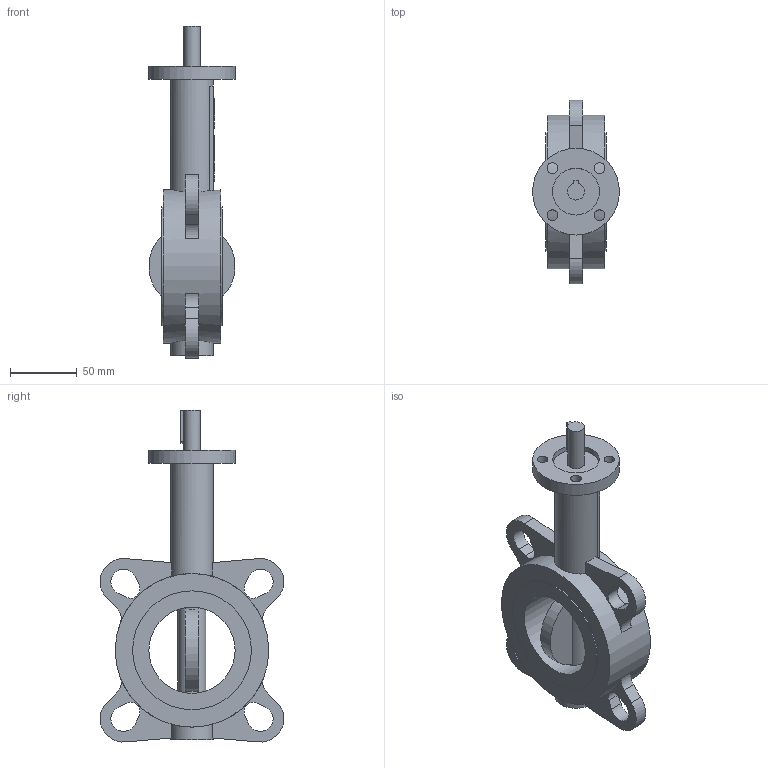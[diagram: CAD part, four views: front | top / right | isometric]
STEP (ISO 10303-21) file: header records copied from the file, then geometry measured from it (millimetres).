
FILE_DESCRIPTION(('STEP AP203'), '1');
FILE_NAME('Çàòâîð 017W.Z(ñòàëü) DN65 PN10_16 áåç èñï. ìåõ-ìà', '', ('UNSPECIFIED'), ('UNSPECIFIED'), 'ASCON STEP Converter 1.6', 'ASCON Math Kernel', '');
FILE_SCHEMA(('CONFIG_CONTROL_DESIGN'));
Length unit declared in the file: millimetre
Bounding box: 65 x 137.4 x 248.7 mm (x, y, z)
Volume: 500396 mm3; surface area: 79172 mm2
Topology: 1 solids, 1 shells, 607 faces, 1739 edges, 1159 vertices
Faces by surface type: cylinder 411, plane 196
Full cylindrical faces by diameter (mm): 8 x4, 12.6 x1, 21 x1, 32 x2, 35 x1, 64.6 x1, 65 x1, 89 x2, 115 x1
Entity records: 25696 total; most frequent: CARTESIAN_POINT 4133, DIRECTION 3750, ORIENTED_EDGE 3450, EDGE_CURVE 1725, AXIS2_PLACEMENT_3D 1436, VERTEX_POINT 1159, LINE 878, VECTOR 878
